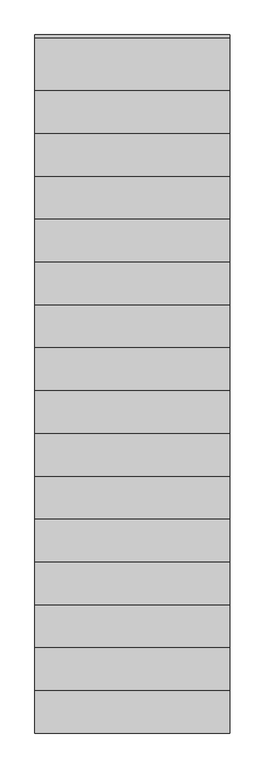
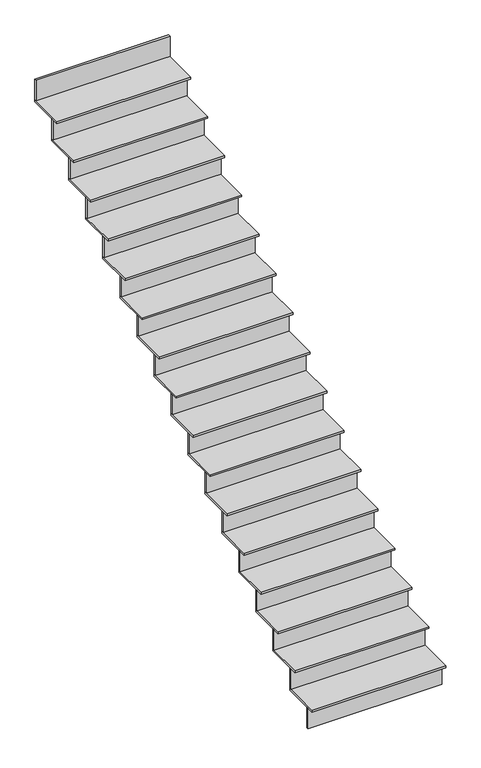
"""IFC4 building model written with IfcOpenShell, lengths in millimetres: stair flight geometry, 24_STR_trede_staal_gegalvaniseerd_rooster_15_neus_50_stootbord_15."""

from ifc_helpers import new_model, si_unit, frame, origin, origin_with_axes, place, context, project, spatial, polyline, outline, extrude, source, transform, mapped, element, save


def stair_flight_034ae34c(model_context):
    return source(origin(), model_context, "Body", "SweptSolid", [
        extrude(outline(polyline([(25274.8089026, -25039.6322236), (26274.8089026, -25039.6322236), (26274.8089026, -25324.6322236), (25274.8089026, -25324.6322236), (25274.8089026, -25039.6322236)])), frame((0.0, 0.0, 161.4705882), z_axis=(0.0, 0.0, 1.0), x_axis=(1.0, 0.0, 0.0)), (0.0, 0.0, 1.0), 15.0),
        extrude(outline(polyline([(26274.8089026, -25259.6322236), (26274.8089026, -25274.6322236), (25274.8089026, -25274.6322236), (25274.8089026, -25259.6322236), (26274.8089026, -25259.6322236)])), origin_with_axes(), (0.0, 0.0, 1.0), 161.4705882),
        extrude(outline(polyline([(25274.8089026, -24819.6322236), (26274.8089026, -24819.6322236), (26274.8089026, -25104.6322236), (25274.8089026, -25104.6322236), (25274.8089026, -24819.6322236)])), frame((0.0, 0.0, 337.9411765), z_axis=(0.0, 0.0, 1.0), x_axis=(1.0, 0.0, 0.0)), (0.0, 0.0, 1.0), 15.0),
        extrude(outline(polyline([(26274.8089026, -25039.6322236), (26274.8089026, -25054.6322236), (25274.8089026, -25054.6322236), (25274.8089026, -25039.6322236), (26274.8089026, -25039.6322236)])), frame((0.0, 0.0, 176.4705882), z_axis=(0.0, 0.0, 1.0), x_axis=(1.0, 0.0, 0.0)), (0.0, 0.0, 1.0), 161.4705882),
        extrude(outline(polyline([(25274.8089026, -24599.6322236), (26274.8089026, -24599.6322236), (26274.8089026, -24884.6322236), (25274.8089026, -24884.6322236), (25274.8089026, -24599.6322236)])), frame((0.0, 0.0, 514.4117647), z_axis=(0.0, 0.0, 1.0), x_axis=(1.0, 0.0, 0.0)), (0.0, 0.0, 1.0), 15.0),
        extrude(outline(polyline([(26274.8089026, -24819.6322236), (26274.8089026, -24834.6322236), (25274.8089026, -24834.6322236), (25274.8089026, -24819.6322236), (26274.8089026, -24819.6322236)])), frame((0.0, 0.0, 352.9411765), z_axis=(0.0, 0.0, 1.0), x_axis=(1.0, 0.0, 0.0)), (0.0, 0.0, 1.0), 161.4705882),
        extrude(outline(polyline([(25274.8089026, -24379.6322236), (26274.8089026, -24379.6322236), (26274.8089026, -24664.6322236), (25274.8089026, -24664.6322236), (25274.8089026, -24379.6322236)])), frame((0.0, 0.0, 690.8823529), z_axis=(0.0, 0.0, 1.0), x_axis=(1.0, 0.0, 0.0)), (0.0, 0.0, 1.0), 15.0),
        extrude(outline(polyline([(26274.8089026, -24599.6322236), (26274.8089026, -24614.6322236), (25274.8089026, -24614.6322236), (25274.8089026, -24599.6322236), (26274.8089026, -24599.6322236)])), frame((0.0, 0.0, 529.4117647), z_axis=(0.0, 0.0, 1.0), x_axis=(1.0, 0.0, 0.0)), (0.0, 0.0, 1.0), 161.4705882),
        extrude(outline(polyline([(25274.8089026, -24159.6322236), (26274.8089026, -24159.6322236), (26274.8089026, -24444.6322236), (25274.8089026, -24444.6322236), (25274.8089026, -24159.6322236)])), frame((0.0, 0.0, 867.3529412), z_axis=(0.0, 0.0, 1.0), x_axis=(1.0, 0.0, 0.0)), (0.0, 0.0, 1.0), 15.0),
        extrude(outline(polyline([(26274.8089026, -24379.6322236), (26274.8089026, -24394.6322236), (25274.8089026, -24394.6322236), (25274.8089026, -24379.6322236), (26274.8089026, -24379.6322236)])), frame((0.0, 0.0, 705.8823529), z_axis=(0.0, 0.0, 1.0), x_axis=(1.0, 0.0, 0.0)), (0.0, 0.0, 1.0), 161.4705882),
        extrude(outline(polyline([(25274.8089026, -23939.6322236), (26274.8089026, -23939.6322236), (26274.8089026, -24224.6322236), (25274.8089026, -24224.6322236), (25274.8089026, -23939.6322236)])), frame((0.0, 0.0, 1043.8235294), z_axis=(0.0, 0.0, 1.0), x_axis=(1.0, 0.0, 0.0)), (0.0, 0.0, 1.0), 15.0),
        extrude(outline(polyline([(26274.8089026, -24159.6322236), (26274.8089026, -24174.6322236), (25274.8089026, -24174.6322236), (25274.8089026, -24159.6322236), (26274.8089026, -24159.6322236)])), frame((0.0, 0.0, 882.3529412), z_axis=(0.0, 0.0, 1.0), x_axis=(1.0, 0.0, 0.0)), (0.0, 0.0, 1.0), 161.4705882),
        extrude(outline(polyline([(25274.8089026, -23719.6322236), (26274.8089026, -23719.6322236), (26274.8089026, -24004.6322236), (25274.8089026, -24004.6322236), (25274.8089026, -23719.6322236)])), frame((0.0, 0.0, 1220.2941176), z_axis=(0.0, 0.0, 1.0), x_axis=(1.0, 0.0, 0.0)), (0.0, 0.0, 1.0), 15.0),
        extrude(outline(polyline([(26274.8089026, -23939.6322236), (26274.8089026, -23954.6322236), (25274.8089026, -23954.6322236), (25274.8089026, -23939.6322236), (26274.8089026, -23939.6322236)])), frame((0.0, 0.0, 1058.8235294), z_axis=(0.0, 0.0, 1.0), x_axis=(1.0, 0.0, 0.0)), (0.0, 0.0, 1.0), 161.4705882),
        extrude(outline(polyline([(25274.8089026, -23499.6322236), (26274.8089026, -23499.6322236), (26274.8089026, -23784.6322236), (25274.8089026, -23784.6322236), (25274.8089026, -23499.6322236)])), frame((0.0, 0.0, 1396.7647059), z_axis=(0.0, 0.0, 1.0), x_axis=(1.0, 0.0, 0.0)), (0.0, 0.0, 1.0), 15.0),
        extrude(outline(polyline([(26274.8089026, -23719.6322236), (26274.8089026, -23734.6322236), (25274.8089026, -23734.6322236), (25274.8089026, -23719.6322236), (26274.8089026, -23719.6322236)])), frame((0.0, 0.0, 1235.2941176), z_axis=(0.0, 0.0, 1.0), x_axis=(1.0, 0.0, 0.0)), (0.0, 0.0, 1.0), 161.4705882),
        extrude(outline(polyline([(25274.8089026, -23279.6322236), (26274.8089026, -23279.6322236), (26274.8089026, -23564.6322236), (25274.8089026, -23564.6322236), (25274.8089026, -23279.6322236)])), frame((0.0, 0.0, 1573.2352941), z_axis=(0.0, 0.0, 1.0), x_axis=(1.0, 0.0, 0.0)), (0.0, 0.0, 1.0), 15.0),
        extrude(outline(polyline([(26274.8089026, -23499.6322236), (26274.8089026, -23514.6322236), (25274.8089026, -23514.6322236), (25274.8089026, -23499.6322236), (26274.8089026, -23499.6322236)])), frame((0.0, 0.0, 1411.7647059), z_axis=(0.0, 0.0, 1.0), x_axis=(1.0, 0.0, 0.0)), (0.0, 0.0, 1.0), 161.4705882),
        extrude(outline(polyline([(25274.8089026, -23059.6322236), (26274.8089026, -23059.6322236), (26274.8089026, -23344.6322236), (25274.8089026, -23344.6322236), (25274.8089026, -23059.6322236)])), frame((0.0, 0.0, 1749.7058824), z_axis=(0.0, 0.0, 1.0), x_axis=(1.0, 0.0, 0.0)), (0.0, 0.0, 1.0), 15.0),
        extrude(outline(polyline([(26274.8089026, -23279.6322236), (26274.8089026, -23294.6322236), (25274.8089026, -23294.6322236), (25274.8089026, -23279.6322236), (26274.8089026, -23279.6322236)])), frame((0.0, 0.0, 1588.2352941), z_axis=(0.0, 0.0, 1.0), x_axis=(1.0, 0.0, 0.0)), (0.0, 0.0, 1.0), 161.4705882),
        extrude(outline(polyline([(25274.8089026, -22839.6322236), (26274.8089026, -22839.6322236), (26274.8089026, -23124.6322236), (25274.8089026, -23124.6322236), (25274.8089026, -22839.6322236)])), frame((0.0, 0.0, 1926.1764706), z_axis=(0.0, 0.0, 1.0), x_axis=(1.0, 0.0, 0.0)), (0.0, 0.0, 1.0), 15.0),
        extrude(outline(polyline([(26274.8089026, -23059.6322236), (26274.8089026, -23074.6322236), (25274.8089026, -23074.6322236), (25274.8089026, -23059.6322236), (26274.8089026, -23059.6322236)])), frame((0.0, 0.0, 1764.7058824), z_axis=(0.0, 0.0, 1.0), x_axis=(1.0, 0.0, 0.0)), (0.0, 0.0, 1.0), 161.4705882),
        extrude(outline(polyline([(25274.8089026, -22619.6322236), (26274.8089026, -22619.6322236), (26274.8089026, -22904.6322236), (25274.8089026, -22904.6322236), (25274.8089026, -22619.6322236)])), frame((0.0, 0.0, 2102.6470588), z_axis=(0.0, 0.0, 1.0), x_axis=(1.0, 0.0, 0.0)), (0.0, 0.0, 1.0), 15.0),
        extrude(outline(polyline([(26274.8089026, -22839.6322236), (26274.8089026, -22854.6322236), (25274.8089026, -22854.6322236), (25274.8089026, -22839.6322236), (26274.8089026, -22839.6322236)])), frame((0.0, 0.0, 1941.1764706), z_axis=(0.0, 0.0, 1.0), x_axis=(1.0, 0.0, 0.0)), (0.0, 0.0, 1.0), 161.4705882),
        extrude(outline(polyline([(25274.8089026, -22399.6322236), (26274.8089026, -22399.6322236), (26274.8089026, -22684.6322236), (25274.8089026, -22684.6322236), (25274.8089026, -22399.6322236)])), frame((0.0, 0.0, 2279.1176471), z_axis=(0.0, 0.0, 1.0), x_axis=(1.0, 0.0, 0.0)), (0.0, 0.0, 1.0), 15.0),
        extrude(outline(polyline([(26274.8089026, -22619.6322236), (26274.8089026, -22634.6322236), (25274.8089026, -22634.6322236), (25274.8089026, -22619.6322236), (26274.8089026, -22619.6322236)])), frame((0.0, 0.0, 2117.6470588), z_axis=(0.0, 0.0, 1.0), x_axis=(1.0, 0.0, 0.0)), (0.0, 0.0, 1.0), 161.4705882),
        extrude(outline(polyline([(25274.8089026, -22179.6322236), (26274.8089026, -22179.6322236), (26274.8089026, -22464.6322236), (25274.8089026, -22464.6322236), (25274.8089026, -22179.6322236)])), frame((0.0, 0.0, 2455.5882353), z_axis=(0.0, 0.0, 1.0), x_axis=(1.0, 0.0, 0.0)), (0.0, 0.0, 1.0), 15.0),
        extrude(outline(polyline([(26274.8089026, -22399.6322236), (26274.8089026, -22414.6322236), (25274.8089026, -22414.6322236), (25274.8089026, -22399.6322236), (26274.8089026, -22399.6322236)])), frame((0.0, 0.0, 2294.1176471), z_axis=(0.0, 0.0, 1.0), x_axis=(1.0, 0.0, 0.0)), (0.0, 0.0, 1.0), 161.4705882),
        extrude(outline(polyline([(25274.8089026, -21959.6322236), (26274.8089026, -21959.6322236), (26274.8089026, -22244.6322236), (25274.8089026, -22244.6322236), (25274.8089026, -21959.6322236)])), frame((0.0, 0.0, 2632.0588235), z_axis=(0.0, 0.0, 1.0), x_axis=(1.0, 0.0, 0.0)), (0.0, 0.0, 1.0), 15.0),
        extrude(outline(polyline([(26274.8089026, -22179.6322236), (26274.8089026, -22194.6322236), (25274.8089026, -22194.6322236), (25274.8089026, -22179.6322236), (26274.8089026, -22179.6322236)])), frame((0.0, 0.0, 2470.5882353), z_axis=(0.0, 0.0, 1.0), x_axis=(1.0, 0.0, 0.0)), (0.0, 0.0, 1.0), 161.4705882),
        extrude(outline(polyline([(25274.8089026, -21739.6322236), (26274.8089026, -21739.6322236), (26274.8089026, -22024.6322236), (25274.8089026, -22024.6322236), (25274.8089026, -21739.6322236)])), frame((0.0, 0.0, 2808.5294118), z_axis=(0.0, 0.0, 1.0), x_axis=(1.0, 0.0, 0.0)), (0.0, 0.0, 1.0), 15.0),
        extrude(outline(polyline([(26274.8089026, -21959.6322236), (26274.8089026, -21974.6322236), (25274.8089026, -21974.6322236), (25274.8089026, -21959.6322236), (26274.8089026, -21959.6322236)])), frame((0.0, 0.0, 2647.0588235), z_axis=(0.0, 0.0, 1.0), x_axis=(1.0, 0.0, 0.0)), (0.0, 0.0, 1.0), 161.4705882),
        extrude(outline(polyline([(26274.8089026, -21739.6322236), (26274.8089026, -21754.6322236), (25274.8089026, -21754.6322236), (25274.8089026, -21739.6322236), (26274.8089026, -21739.6322236)])), frame((0.0, 0.0, 2823.5294118), z_axis=(0.0, 0.0, 1.0), x_axis=(1.0, 0.0, 0.0)), (0.0, 0.0, 1.0), 161.4705882),
    ])


if __name__ == "__main__":
    model = new_model("IFC4")
    model_context = context("Model", 3, world=origin())
    ifc_project = project(units=[si_unit("LENGTHUNIT", "METRE", prefix="MILLI")], contexts=[model_context])
    site = spatial("IfcSite", under=ifc_project)
    building = spatial("IfcBuilding", under=site)
    placement = place(None, origin())
    stair_flight_shape = stair_flight_034ae34c(model_context)
    element("IfcStairFlight", 1, ObjectType="24_STR_trede_staal_gegalvaniseerd_rooster_15_neus_50_stootbord_15", at=placement, inside=building, context=model_context, shape_type="MappedRepresentation", body=[
        mapped(stair_flight_shape, transform((0.0, 0.0, 0.0), x_axis=(1.0, 0.0, 0.0), y_axis=(0.0, 1.0, 0.0), z_axis=(0.0, 0.0, 1.0))),
    ])
    save(model, "model.ifc")
